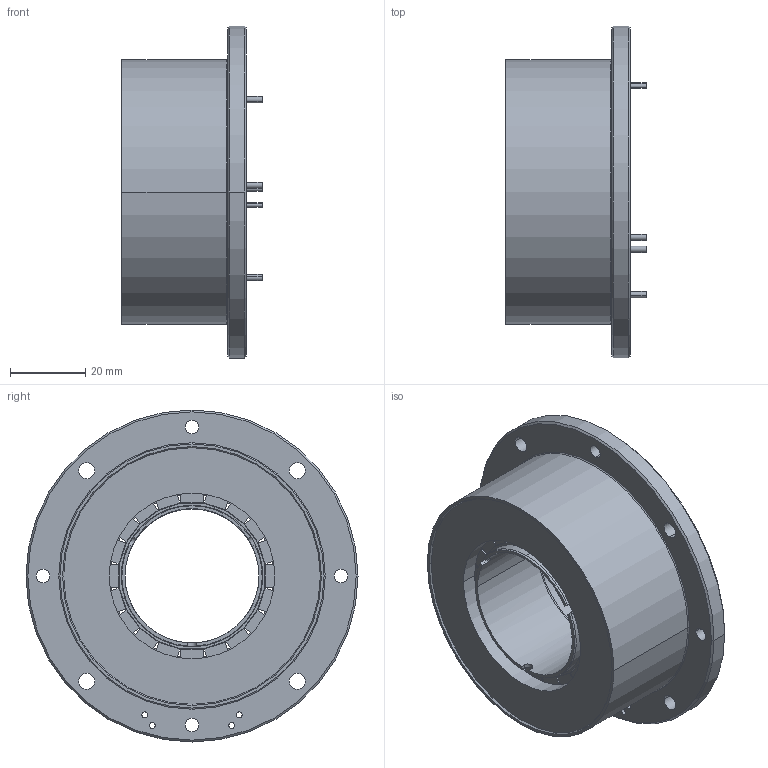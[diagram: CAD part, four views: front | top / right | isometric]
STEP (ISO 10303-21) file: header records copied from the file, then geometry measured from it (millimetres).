
FILE_DESCRIPTION((''),'2;1');
FILE_NAME('9129709_SW0001','2023-04-26T14:52:33',('MMAGMHAU'),(''),'CREO PARAMETRIC BY PTC INC, 2020342','CREO PARAMETRIC BY PTC INC, 2020342','');
FILE_SCHEMA(('CONFIG_CONTROL_DESIGN','SHAPE_APPEARANCE_LAYERS_GROUPS'));
Length unit declared in the file: millimetre
Products named in the file (1): 9129709_SW0001
Bounding box: 37.17 x 88 x 88 mm (x, y, z)
Volume: 94877.7 mm3; surface area: 30227.5 mm2
Topology: 2 solids, 2 shells, 368 faces, 970 edges, 616 vertices
Faces by surface type: plane 189, torus 86, cylinder 75, cone 18
Entity records: 15320 total; most frequent: CARTESIAN_POINT 3727, ORIENTED_EDGE 1940, DIRECTION 1526, PRESENTATION_STYLE_ASSIGNMENT 972, STYLED_ITEM 972, CURVE_STYLE 970, EDGE_CURVE 970, VERTEX_POINT 616
